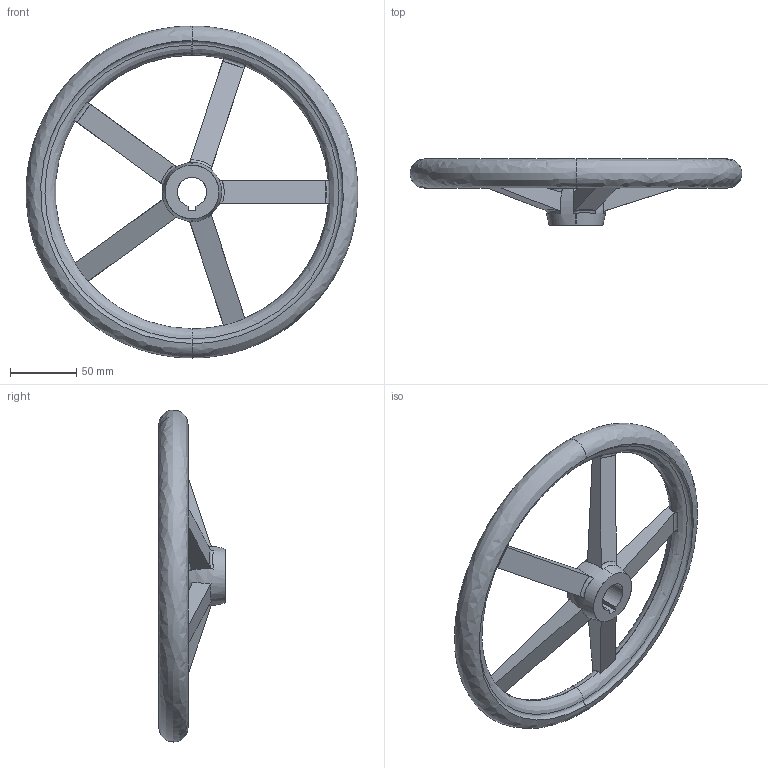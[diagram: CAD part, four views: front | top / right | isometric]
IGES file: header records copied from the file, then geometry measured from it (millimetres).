
Start section: SolidWorks IGES file using analytic representation for surfaces
Global section: file name: C:\Users\IanO\Desktop\Temp File\Process pending\77120_v2\77120_v2_20171108_IGES\77120.W0140.igs; native system: SolidWorks 2017; preprocessor: SolidWorks 2017; author: IanO; date: 171108.083230; units: millimetre
Bounding box: 250 x 50 x 250 mm (x, y, z)
Surface area: 79483.9 mm2 (no closed solid volume)
Topology: 0 solids, 0 shells, 53 faces, 1105 edges, 1097 vertices
Faces by surface type: bspline 52, revolution 1
